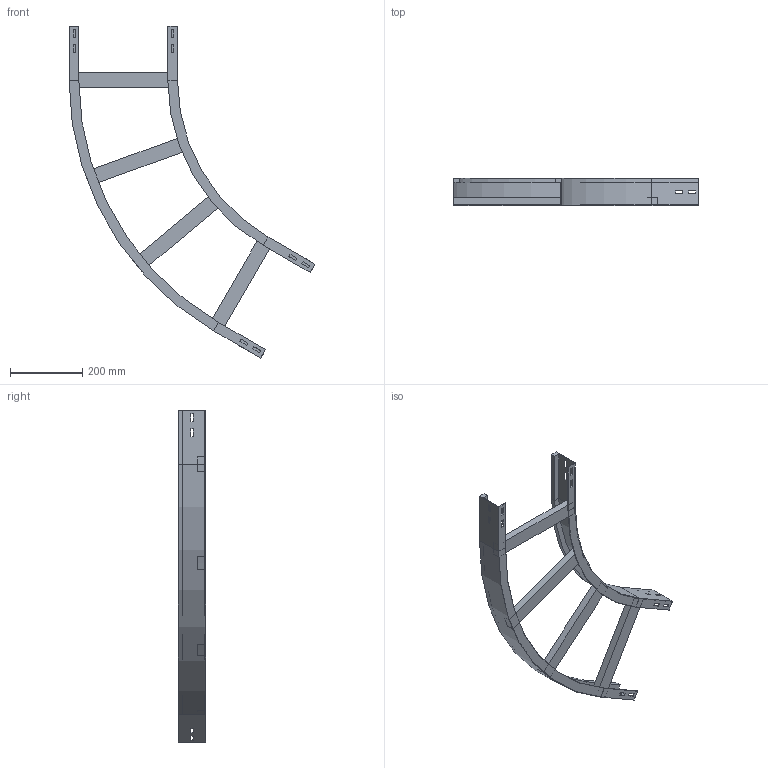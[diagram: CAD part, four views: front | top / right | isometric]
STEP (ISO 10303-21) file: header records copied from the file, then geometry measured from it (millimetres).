
FILE_DESCRIPTION (( 'STEP AP214' ), '1' );
FILE_NAME ('13B5C300.step', '2025-02-21T15:20:33', ( '' ), ( '' ), 'SwSTEP 2.0', 'SolidWorks 2023', '' );
FILE_SCHEMA (( 'AUTOMOTIVE_DESIGN' ));
Length unit declared in the file: millimetre
Products named in the file (4): 13B5C300; A2_LONGH.ESTERNO 60°_H75_R500+300; TRAVERSINO_300; A2_LONGH.INTERNO 60°_H75_R500
Assembly tree (6 placements, depth 2):
  13B5C300
    A2_LONGH.INTERNO 60°_H75_R500
    A2_LONGH.ESTERNO 60°_H75_R500+300
    TRAVERSINO_300  x4
Bounding box: 679.9 x 75 x 917.82 mm (x, y, z)
Volume: 1722963.9 mm3; surface area: 611120.2 mm2
Topology: 6 solids, 6 shells, 140 faces, 352 edges, 224 vertices
Faces by surface type: plane 132, cylinder 8
Entity records: 3829 total; most frequent: CARTESIAN_POINT 647, ORIENTED_EDGE 632, DIRECTION 594, EDGE_CURVE 316, LINE 300, VECTOR 300, VERTEX_POINT 200, EDGE_LOOP 154
